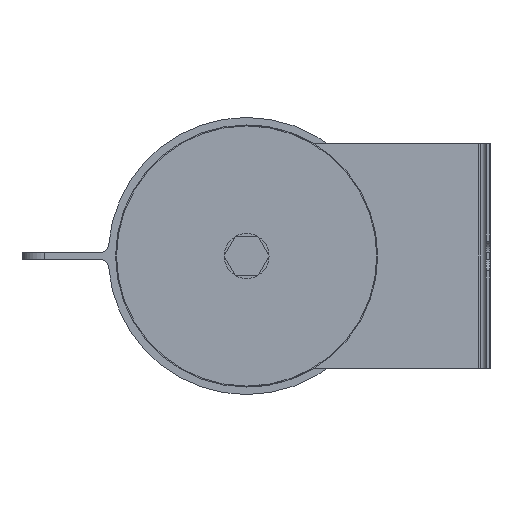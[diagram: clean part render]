
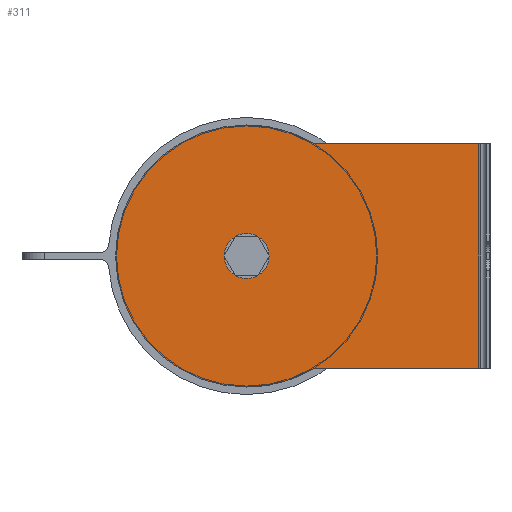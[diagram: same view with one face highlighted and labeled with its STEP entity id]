
A CAD part, left-side view. The second image highlights one B-rep face of the part: STEP entity #311.
In plain terms, the highlighted planar face has unit normal (-1, 0, 0).
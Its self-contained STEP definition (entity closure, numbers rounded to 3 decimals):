
#98 = AXIS2_PLACEMENT_3D ( 'NONE', #1959, #1940, #2896 ) ;
#217 = VERTEX_POINT ( 'NONE', #2262 ) ;
#260 = VECTOR ( 'NONE', #1043, 1000. ) ;
#266 = AXIS2_PLACEMENT_3D ( 'NONE', #886, #399, #381 ) ;
#311 = ADVANCED_FACE ( 'NONE', ( #2944, #2230 ), #2064, .T. ) ;
#344 = VERTEX_POINT ( 'NONE', #2553 ) ;
#348 = VERTEX_POINT ( 'NONE', #863 ) ;
#381 = DIRECTION ( 'NONE',  ( 0., 0., 1. ) ) ;
#399 = DIRECTION ( 'NONE',  ( -1., 0., 0. ) ) ;
#406 = VERTEX_POINT ( 'NONE', #2562 ) ;
#413 = EDGE_LOOP ( 'NONE', ( #2199, #1496 ) ) ;
#442 = DIRECTION ( 'NONE',  ( 0., 0., 1. ) ) ;
#451 = ORIENTED_EDGE ( 'NONE', *, *, #2745, .T. ) ;
#491 = ORIENTED_EDGE ( 'NONE', *, *, #1891, .T. ) ;
#508 = CARTESIAN_POINT ( 'NONE',  ( -516.5, 0., 0. ) ) ;
#610 = EDGE_CURVE ( 'NONE', #615, #217, #3006, .T. ) ;
#615 = VERTEX_POINT ( 'NONE', #2903 ) ;
#750 = CIRCLE ( 'NONE', #266, 35. ) ;
#834 = CARTESIAN_POINT ( 'NONE',  ( -516.5, 0., 0. ) ) ;
#863 = CARTESIAN_POINT ( 'NONE',  ( -516.5, -62.5, -30. ) ) ;
#886 = CARTESIAN_POINT ( 'NONE',  ( -516.5, 0., 0. ) ) ;
#894 = CARTESIAN_POINT ( 'NONE',  ( -516.5, -62.5, 30. ) ) ;
#959 = DIRECTION ( 'NONE',  ( -1., 0., 0. ) ) ;
#1043 = DIRECTION ( 'NONE',  ( 0., 1., 0. ) ) ;
#1196 = DIRECTION ( 'NONE',  ( -1., 0., 0. ) ) ;
#1286 = EDGE_CURVE ( 'NONE', #344, #348, #2088, .T. ) ;
#1344 = VERTEX_POINT ( 'NONE', #2206 ) ;
#1412 = CIRCLE ( 'NONE', #2513, 6. ) ;
#1431 = CARTESIAN_POINT ( 'NONE',  ( -516.5, 0., 0. ) ) ;
#1458 = DIRECTION ( 'NONE',  ( 0., 0., 1. ) ) ;
#1496 = ORIENTED_EDGE ( 'NONE', *, *, #2336, .F. ) ;
#1522 = CIRCLE ( 'NONE', #1964, 35. ) ;
#1593 = AXIS2_PLACEMENT_3D ( 'NONE', #834, #1827, #2825 ) ;
#1599 = ORIENTED_EDGE ( 'NONE', *, *, #3052, .T. ) ;
#1607 = VERTEX_POINT ( 'NONE', #2592 ) ;
#1803 = EDGE_LOOP ( 'NONE', ( #3155, #2407, #491, #1599, #2576, #451 ) ) ;
#1827 = DIRECTION ( 'NONE',  ( -1., 0., 0. ) ) ;
#1891 = EDGE_CURVE ( 'NONE', #2953, #1344, #2889, .T. ) ;
#1940 = DIRECTION ( 'NONE',  ( -1., 0., 0. ) ) ;
#1959 = CARTESIAN_POINT ( 'NONE',  ( -516.5, 0., 0. ) ) ;
#1964 = AXIS2_PLACEMENT_3D ( 'NONE', #2432, #1196, #2223 ) ;
#2064 = PLANE ( 'NONE',  #1593 ) ;
#2088 = LINE ( 'NONE', #2847, #2289 ) ;
#2113 = CIRCLE ( 'NONE', #98, 6. ) ;
#2116 = DIRECTION ( 'NONE',  ( 0., 0., 1. ) ) ;
#2199 = ORIENTED_EDGE ( 'NONE', *, *, #2386, .F. ) ;
#2206 = CARTESIAN_POINT ( 'NONE',  ( -516.5, -18.028, 30. ) ) ;
#2223 = DIRECTION ( 'NONE',  ( 0., 0., 1. ) ) ;
#2230 = FACE_OUTER_BOUND ( 'NONE', #1803, .T. ) ;
#2262 = CARTESIAN_POINT ( 'NONE',  ( -516.5, 0., -35. ) ) ;
#2289 = VECTOR ( 'NONE', #2365, 1000. ) ;
#2305 = CARTESIAN_POINT ( 'NONE',  ( -516.5, -62.5, 30. ) ) ;
#2336 = EDGE_CURVE ( 'NONE', #1607, #406, #1412, .T. ) ;
#2365 = DIRECTION ( 'NONE',  ( 0., -1., 0. ) ) ;
#2386 = EDGE_CURVE ( 'NONE', #406, #1607, #2113, .T. ) ;
#2388 = VECTOR ( 'NONE', #2116, 1000. ) ;
#2407 = ORIENTED_EDGE ( 'NONE', *, *, #3140, .T. ) ;
#2432 = CARTESIAN_POINT ( 'NONE',  ( -516.5, 0., 0. ) ) ;
#2442 = DIRECTION ( 'NONE',  ( -1., 0., 0. ) ) ;
#2446 = AXIS2_PLACEMENT_3D ( 'NONE', #1431, #2442, #442 ) ;
#2513 = AXIS2_PLACEMENT_3D ( 'NONE', #508, #959, #1458 ) ;
#2550 = CARTESIAN_POINT ( 'NONE',  ( -516.5, 0., 30. ) ) ;
#2553 = CARTESIAN_POINT ( 'NONE',  ( -516.5, -18.028, -30. ) ) ;
#2562 = CARTESIAN_POINT ( 'NONE',  ( -516.5, 0., -6. ) ) ;
#2576 = ORIENTED_EDGE ( 'NONE', *, *, #610, .T. ) ;
#2592 = CARTESIAN_POINT ( 'NONE',  ( -516.5, 0., 6. ) ) ;
#2706 = LINE ( 'NONE', #894, #2388 ) ;
#2745 = EDGE_CURVE ( 'NONE', #217, #344, #1522, .T. ) ;
#2825 = DIRECTION ( 'NONE',  ( 0., 0., 1. ) ) ;
#2847 = CARTESIAN_POINT ( 'NONE',  ( -516.5, 0., -30. ) ) ;
#2889 = LINE ( 'NONE', #2550, #260 ) ;
#2896 = DIRECTION ( 'NONE',  ( 0., 0., 1. ) ) ;
#2903 = CARTESIAN_POINT ( 'NONE',  ( -516.5, 0., 35. ) ) ;
#2944 = FACE_BOUND ( 'NONE', #413, .T. ) ;
#2953 = VERTEX_POINT ( 'NONE', #2305 ) ;
#3006 = CIRCLE ( 'NONE', #2446, 35. ) ;
#3052 = EDGE_CURVE ( 'NONE', #1344, #615, #750, .T. ) ;
#3140 = EDGE_CURVE ( 'NONE', #348, #2953, #2706, .T. ) ;
#3155 = ORIENTED_EDGE ( 'NONE', *, *, #1286, .T. ) ;
